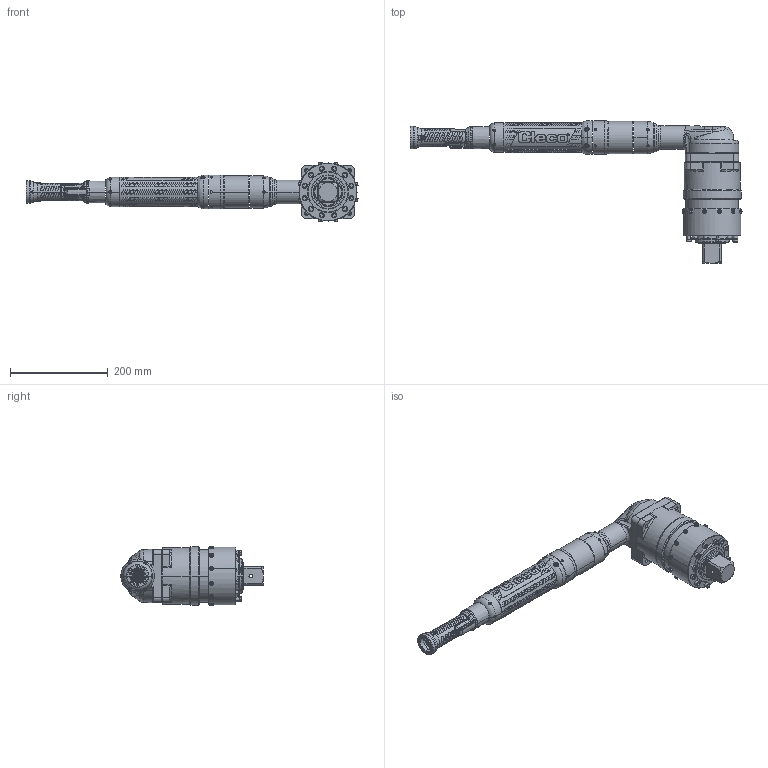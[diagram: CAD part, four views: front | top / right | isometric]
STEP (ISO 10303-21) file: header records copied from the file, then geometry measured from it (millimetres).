
FILE_DESCRIPTION((''),'2;1');
FILE_NAME('70EAN4000UA12MT_SW0003','2021-07-14T',('E2E42'),(''),'CREO PARAMETRIC BY PTC INC, 2016050','CREO PARAMETRIC BY PTC INC, 2016050','');
FILE_SCHEMA(('CONFIG_CONTROL_DESIGN'));
Length unit declared in the file: millimetre
Products named in the file (1): 70EAN4000UA12MT_SW0003
Bounding box: 680.99 x 292.23 x 122.9 mm (x, y, z)
Surface area: 247118 mm2 (no closed solid volume)
Topology: 0 solids, 267 shells, 2794 faces, 10788 edges, 8070 vertices
Faces by surface type: bspline 951, cylinder 812, plane 498, cone 214, torus 165, extrusion 146, sphere 8
Entity records: 171338 total; most frequent: CARTESIAN_POINT 95267, ORIENTED_EDGE 15409, DIRECTION 12167, EDGE_CURVE 10772, VERTEX_POINT 8070, B_SPLINE_CURVE_WITH_KNOTS 5059, AXIS2_PLACEMENT_3D 4465, VECTOR 3237
